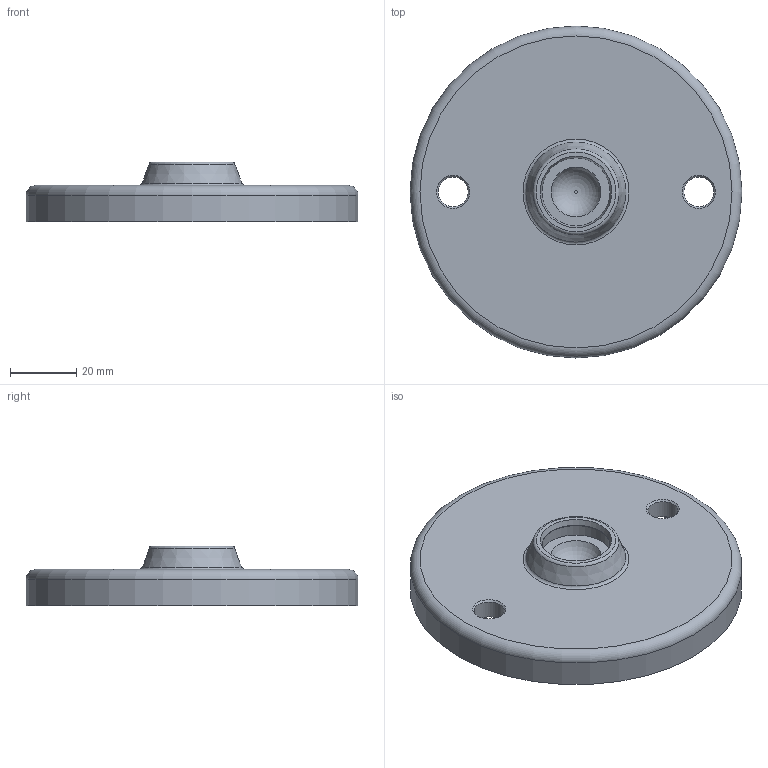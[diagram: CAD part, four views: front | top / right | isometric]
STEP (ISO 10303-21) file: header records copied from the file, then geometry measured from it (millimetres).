
FILE_DESCRIPTION(('STEP AP203'), '1');
FILE_NAME('À00016.6100', '', ('UNSPECIFIED'), ('UNSPECIFIED'), 'C3D Converter', 'C3D Toolkit', '');
FILE_SCHEMA(('CONFIG_CONTROL_DESIGN'));
Length unit declared in the file: millimetre
Products named in the file (1): А00016.4100
Bounding box: 100 x 100 x 18 mm (x, y, z)
Volume: 55850.4 mm3; surface area: 21181.5 mm2
Topology: 1 solids, 1 shells, 25 faces, 43 edges, 26 vertices
Faces by surface type: plane 8, cylinder 6, cone 6, torus 5
Full cylindrical faces by diameter (mm): 9 x2, 15 x1, 21 x1, 90 x1, 100 x1
Entity records: 557 total; most frequent: DIRECTION 104, CARTESIAN_POINT 78, AXIS2_PLACEMENT_3D 52, EDGE_LOOP 52, ORIENTED_EDGE 52, FACE_OUTER_BOUND 34, EDGE_CURVE 26, VERTEX_POINT 26
